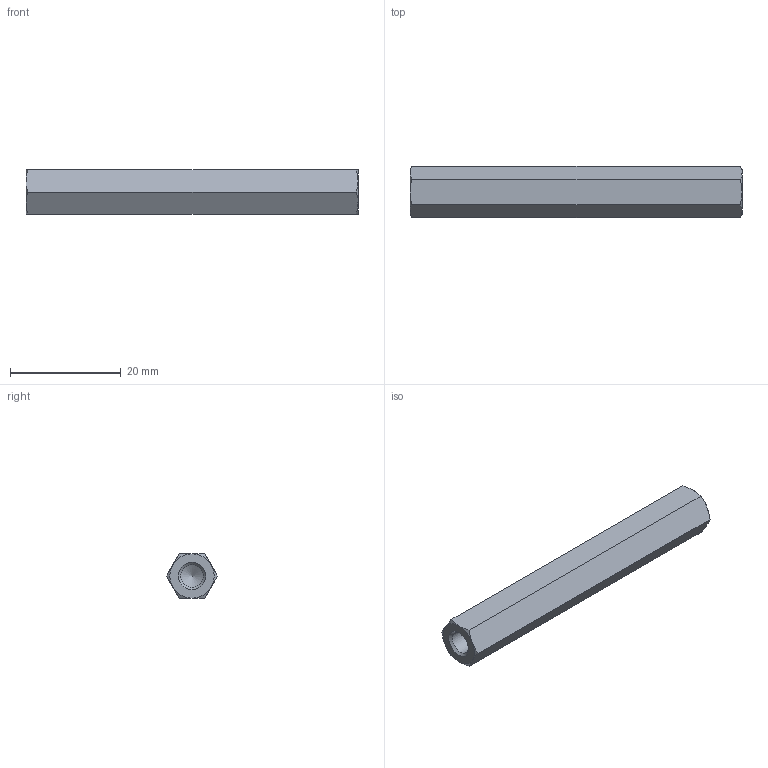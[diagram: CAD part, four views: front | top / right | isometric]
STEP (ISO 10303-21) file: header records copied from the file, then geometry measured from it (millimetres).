
FILE_DESCRIPTION( ( 'STEP AP203' ), '1' );
FILE_NAME( 'C:/Temp/Ganter_Step_05_03_2020/data/3_2/gn6220/gn6220_st/Spacer GN 6220-ST-M5-60-A.stp', '2020-03-13T05:42:28', ( 'License CC BY-ND 4.0' ), ( 'CADENAS' ), ' ', 'PARTsolutions', ' ' );
FILE_SCHEMA( ( 'CONFIG_CONTROL_DESIGN' ) );
Length unit declared in the file: millimetre
Products named in the file (1): _Spacer GN 6220-ST-M5-60-A
Bounding box: 60 x 9.24 x 8 mm (x, y, z)
Volume: 2929.5 mm3; surface area: 2135.6 mm2
Topology: 1 solids, 1 shells, 26 faces, 57 edges, 33 vertices
Faces by surface type: cone 16, plane 8, cylinder 2
Full cylindrical faces by diameter (mm): 4.134 x2
Entity records: 750 total; most frequent: CARTESIAN_POINT 211, DIRECTION 96, ORIENTED_EDGE 96, EDGE_CURVE 48, AXIS2_PLACEMENT_3D 45, EDGE_LOOP 32, VERTEX_POINT 32, FACE_OUTER_BOUND 28
